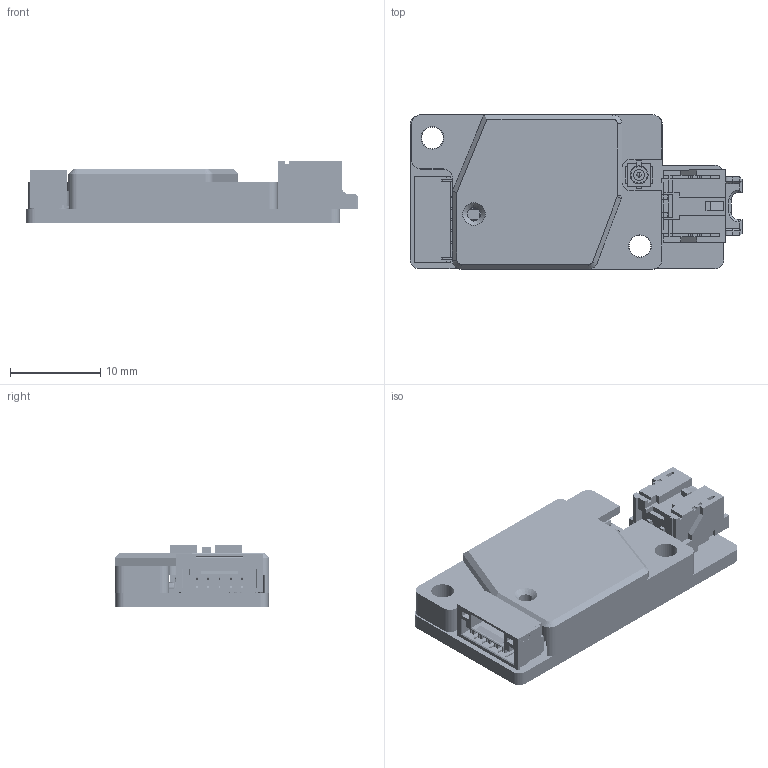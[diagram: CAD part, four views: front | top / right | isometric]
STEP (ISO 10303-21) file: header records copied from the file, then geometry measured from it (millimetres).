
FILE_DESCRIPTION (( 'STEP AP214' ), '1' );
FILE_NAME ('珘弇換覜ん蚾饜.STEP', '2026-02-10T07:32:18', ( 'PC' ), ( 'Microsoft' ), 'SwSTEP 2.0', 'SolidWorks 2025', '' );
FILE_SCHEMA (( 'AUTOMOTIVE_DESIGN' ));
Length unit declared in the file: millimetre
Products named in the file (72): R0402~R0402_L1.0-W0.5-H0.5~zKS4.step; LED1~LED-ARRAY-SMD_0603-4P-L1.6-W1.6-BL-RD~User Library-LED_0605-2~E2kh.step; R23~R0402~R0402_L1.0-W0.5-H0.4~IqYY.step; 2016______-MINI~OSC-SMD_4P-L2.0-W1.6-H0.8~4X63.step; C5~C0402~C0402_L1.0-W0.5-H0.5~gOTT.step; C16~C0603~C0603_L1.6-W0.8-H0.8~SYvq.step; LED-ARRAY-SMD_0603-4P-L1.6-W1.6-BL-RD~User Library-LED_0605-2~k4F7.step; SOT-23-6_L2.9-W1.6-P0.95-LS2.8-BL~SOT-23-6_L2.9-W1.6-H1.5-LS2.8-P0.95~rNzi.step; Board~ceWT.step; LED-ARRAY-SMD_0603-4P-L1.6-W1.6-BL-RD~User Library-LED_0605-2~k4F7-1.step; SOT-23-3_L3.0-W1.7-P0.95-LS2.9-BR~SOT-23-3L_L2.9-W1.6-H1.1-LS2.8-P0.95~lB8I.step; CN2~CONN-SMD_PA-2AWB~CONN-SMD_PA-2AWB~gcW4.step; R6~R0402~R0402_L1.0-W0.5-H0.5~AiM5.step; C0402~C0402_L1.0-W0.5-H0.5~rGmm.step; F1~F0603~F0603_L1.7-W0.9-H0.7~J2JI.step; C4~C0402~C0402_L1.0-W0.5-H0.5~cKBm.step; R0603~R0603_L1.6-W0.8-H0.8~s3A7.step; Q5~SOT-23-3_L3.0-W1.7-P0.95-LS2.9-BR~SOT-23-3L_L2.9-W1.6-H1.1-LS2.8-P0.95~Nn5U.step; C10~C0402~C0402_L1.0-W0.5-H0.5~J13L.step; C0805~C0805_L2.0-W1.3-H1.3~uuvH.step; U10~SOD-323_L1.8-W1.3-LS2.7-BI~SOD-323_L1.8-W1.3-LS2.7-BI~PLKc.step; R4~R0402~R0402_L1.0-W0.5-H0.4~yRYW.step; 3D_PCB_clsensor_v1.31_XLH_1.6mm_2026-01-06_2.step; R12~R0805~R0805_L2.0-W1.3-H0.6~N36Y.step; R22~R0402~R0402_L1.0-W0.5-H0.4~ORk8.step; X1~2016______-MINI~OSC-SMD_4P-L2.0-W1.6-H0.8~L6Ij.step; C7~C0402~C0402_L1.0-W0.5-H0.5~9AQP.step; CONN-SMD_5P-P1.25_WAFER-GH1.25-5PWT-W1-P~CONN-SMD_5P-P1.25_WAFER-GH1.25-5PWT-W1-P~83qd.step; R5~R0402~R0402_L1.0-W0.5-H0.5~x6FP.step; R25~R0603~R0603_L1.6-W0.8-H0.8~EyIA.step; SOT-323_L2.0-W1.3-P1.30-LS2.1-BR~SOT-323_L2.0-W1.3-H1.0-LS2.1-P1.30~uL2y.step; C25~C0805~C0805_L2.0-W1.3-H1.3~z3Pf.step; U12~SOD-323_L1.8-W1.3-LS2.7-BI~SOD-323_L1.8-W1.3-LS2.7-BI~ZEoK.step; QFN-32_L4.0-W4.0-P0.40-BL-EP2.7~QFN-32_L4.0-W4.0-H0.8-P0.40~wi6C.step; D4~SOT-323_L2.0-W1.3-P1.30-LS2.1-BR~SOT-323_L2.0-W1.3-H1.0-LS2.1-P1.30~7R9L.step; SOT-23-5_L3.0-W1.7-P0.95-LS2.8-BR~SOT-23-5_L2.9-W1.6-H1.1-LS2.8-P0.95~sq5I.step; R0402~R0402_L1.0-W0.5-H0.4~eUNC.step; C6~C0402~C0402_L1.0-W0.5-H0.5~mU5M.step; R0805~R0805_L2.0-W1.3-H0.6~AeF6.step; C0603~C0603_L1.6-W0.8-H0.8~aUyD.step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
Assembly tree (95 placements, depth 4):
  液位传感器装配
    液位传感器外壳（26新版）
    3D_PCB_clsensor_v1.31_XLH_1.6mm_2026-01-06_2.step
      U7~SOD-323_L1.8-W1.3-LS2.7-BI~SOD-323_L1.8-W1.3-LS2.7-BI~9pOS.step
        SOD-323_L1.8-W1.3-LS2.7-BI~SOD-323_L1.8-W1.3-LS2.7-BI~Guzp.step
      U10~SOD-323_L1.8-W1.3-LS2.7-BI~SOD-323_L1.8-W1.3-LS2.7-BI~PLKc.step
        SOD-323_L1.8-W1.3-LS2.7-BI~SOD-323_L1.8-W1.3-LS2.7-BI~Guzp.step
      U12~SOD-323_L1.8-W1.3-LS2.7-BI~SOD-323_L1.8-W1.3-LS2.7-BI~ZEoK.step
        SOD-323_L1.8-W1.3-LS2.7-BI~SOD-323_L1.8-W1.3-LS2.7-BI~Guzp.step
      U13~SOD-323_L1.8-W1.3-LS2.7-BI~SOD-323_L1.8-W1.3-LS2.7-BI~Nx0S.step
        SOD-323_L1.8-W1.3-LS2.7-BI~SOD-323_L1.8-W1.3-LS2.7-BI~Guzp.step
      C12~C0402~C0402_L1.0-W0.5-H0.5~RHqd.step
        C0402~C0402_L1.0-W0.5-H0.5~rGmm.step
      C3~C0402~C0402_L1.0-W0.5-H0.5~WPLs.step
        C0402~C0402_L1.0-W0.5-H0.5~rGmm.step
      C4~C0402~C0402_L1.0-W0.5-H0.5~cKBm.step
        C0402~C0402_L1.0-W0.5-H0.5~rGmm.step
      C6~C0402~C0402_L1.0-W0.5-H0.5~mU5M.step
        C0402~C0402_L1.0-W0.5-H0.5~rGmm.step
      C7~C0402~C0402_L1.0-W0.5-H0.5~9AQP.step
        C0402~C0402_L1.0-W0.5-H0.5~rGmm.step
      C8~C0402~C0402_L1.0-W0.5-H0.5~CZFj.step
        C0402~C0402_L1.0-W0.5-H0.5~rGmm.step
      C10~C0402~C0402_L1.0-W0.5-H0.5~J13L.step
        C0402~C0402_L1.0-W0.5-H0.5~rGmm.step
      C11~C0402~C0402_L1.0-W0.5-H0.5~Ma7L.step
        C0402~C0402_L1.0-W0.5-H0.5~rGmm.step
      C5~C0402~C0402_L1.0-W0.5-H0.5~gOTT.step
        C0402~C0402_L1.0-W0.5-H0.5~rGmm.step
      C9~C0402~C0402_L1.0-W0.5-H0.5~3G3k.step
        C0402~C0402_L1.0-W0.5-H0.5~rGmm.step
      C25~C0805~C0805_L2.0-W1.3-H1.3~z3Pf.step
        C0805~C0805_L2.0-W1.3-H1.3~uuvH.step
      C14~C0603~C0603_L1.6-W0.8-H0.8~sOZw.step
        C0603~C0603_L1.6-W0.8-H0.8~aUyD.step
      C16~C0603~C0603_L1.6-W0.8-H0.8~SYvq.step
        C0603~C0603_L1.6-W0.8-H0.8~aUyD.step
      R3~R0402~R0402_L1.0-W0.5-H0.4~y2hz.step
        R0402~R0402_L1.0-W0.5-H0.4~eUNC.step
      R4~R0402~R0402_L1.0-W0.5-H0.4~yRYW.step
        R0402~R0402_L1.0-W0.5-H0.4~eUNC.step
      R11~R0402~R0402_L1.0-W0.5-H0.4~fWHE.step
        R0402~R0402_L1.0-W0.5-H0.4~eUNC.step
      R22~R0402~R0402_L1.0-W0.5-H0.4~ORk8.step
        R0402~R0402_L1.0-W0.5-H0.4~eUNC.step
      R23~R0402~R0402_L1.0-W0.5-H0.4~IqYY.step
        R0402~R0402_L1.0-W0.5-H0.4~eUNC.step
      R26~R0402~R0402_L1.0-W0.5-H0.4~Mzfj.step
        R0402~R0402_L1.0-W0.5-H0.4~eUNC.step
      R30~R0402~R0402_L1.0-W0.5-H0.4~C9xz.step
        R0402~R0402_L1.0-W0.5-H0.4~eUNC.step
      R5~R0402~R0402_L1.0-W0.5-H0.5~x6FP.step
        R0402~R0402_L1.0-W0.5-H0.5~zKS4.step
      R2~R0402~R0402_L1.0-W0.5-H0.5~DoZc.step
        R0402~R0402_L1.0-W0.5-H0.5~zKS4.step
      R6~R0402~R0402_L1.0-W0.5-H0.5~AiM5.step
        R0402~R0402_L1.0-W0.5-H0.5~zKS4.step
      R7~R0402~R0402_L1.0-W0.5-H0.5~WFhs.step
        R0402~R0402_L1.0-W0.5-H0.5~zKS4.step
      R25~R0603~R0603_L1.6-W0.8-H0.8~EyIA.step
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Bounding box: 36.8 x 17.1 x 6.95 mm (x, y, z)
Volume: 2113.7 mm3; surface area: 4096.2 mm2
Topology: 166 solids, 181 shells, 15712 faces, 41790 edges, 27076 vertices
Faces by surface type: plane 9091, bspline 4641, cylinder 1532, sphere 306, torus 126, cone 16
Entity records: 385992 total; most frequent: CARTESIAN_POINT 113881, ORIENTED_EDGE 44826, DIRECTION 31166, EDGE_CURVE 22428, VECTOR 15080, LINE 15080, VERTEX_POINT 14575, EDGE_LOOP 9044
